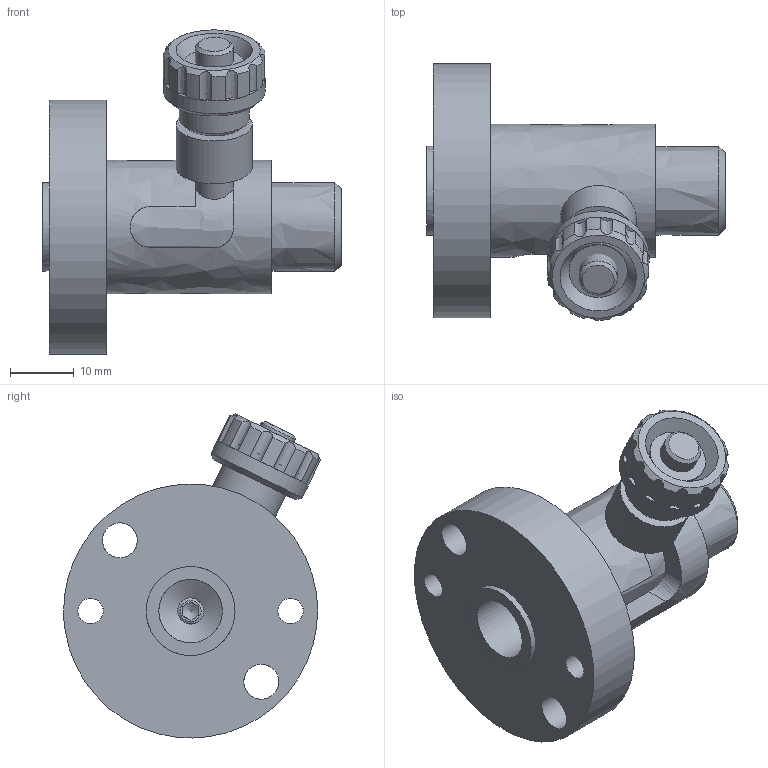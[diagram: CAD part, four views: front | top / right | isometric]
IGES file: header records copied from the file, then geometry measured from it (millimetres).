
Global section: file name: 26.75; native system: Autodesk Inventor 2016; preprocessor: unknown; author: APto; date: 20170315.092603; units: millimetre
Bounding box: 47 x 40.44 x 51.03 mm (x, y, z)
Volume: 21756.8 mm3; surface area: 13527.9 mm2
Topology: 7 solids, 7 shells, 102 faces, 278 edges, 194 vertices
Faces by surface type: bspline 102
